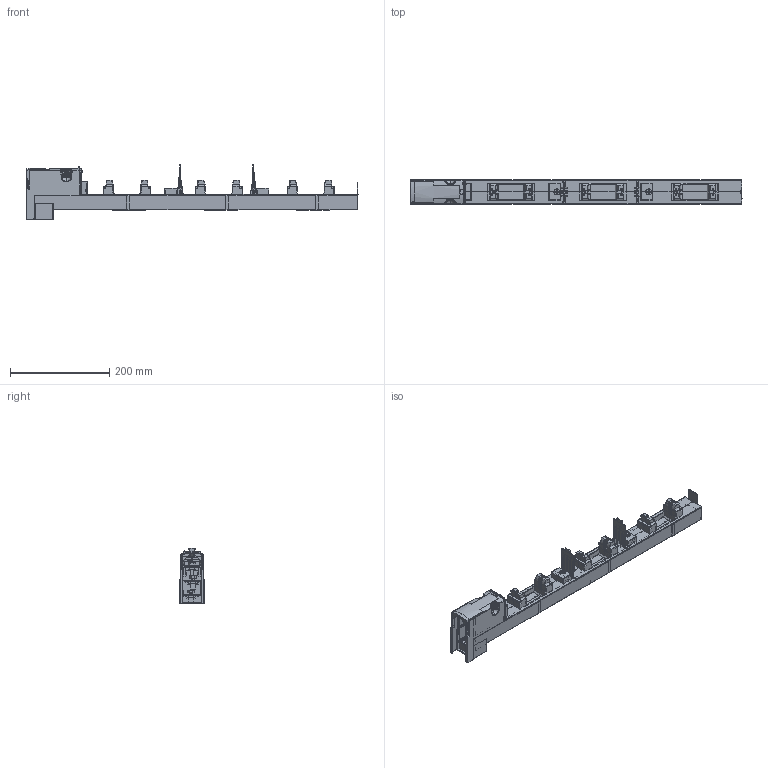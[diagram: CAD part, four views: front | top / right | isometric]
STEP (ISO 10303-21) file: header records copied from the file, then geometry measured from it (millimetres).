
FILE_DESCRIPTION (( 'STEP AP214' ), '1' );
FILE_NAME ('FSR00-3D-FC.step', '2014-11-20T09:35:07', ( '' ), ( '' ), 'SwSTEP 2.0', 'SolidWorks 2011', '' );
FILE_SCHEMA (( 'AUTOMOTIVE_DESIGN' ));
Length unit declared in the file: millimetre
Products named in the file (1): FSR00-3D-FC
Bounding box: 668.73 x 50.13 x 112.2 mm (x, y, z)
Volume: 374231.9 mm3; surface area: 443902.9 mm2
Topology: 17 solids, 17 shells, 6951 faces, 18392 edges, 11427 vertices
Faces by surface type: plane 3134, cylinder 2005, torus 614, cone 596, bspline 393, sphere 209
Entity records: 303775 total; most frequent: CARTESIAN_POINT 61905, ORIENTED_EDGE 36696, DIRECTION 32688, EDGE_CURVE 18348, VERTEX_POINT 11425, LINE 11166, VECTOR 11166, AXIS2_PLACEMENT_3D 10761
